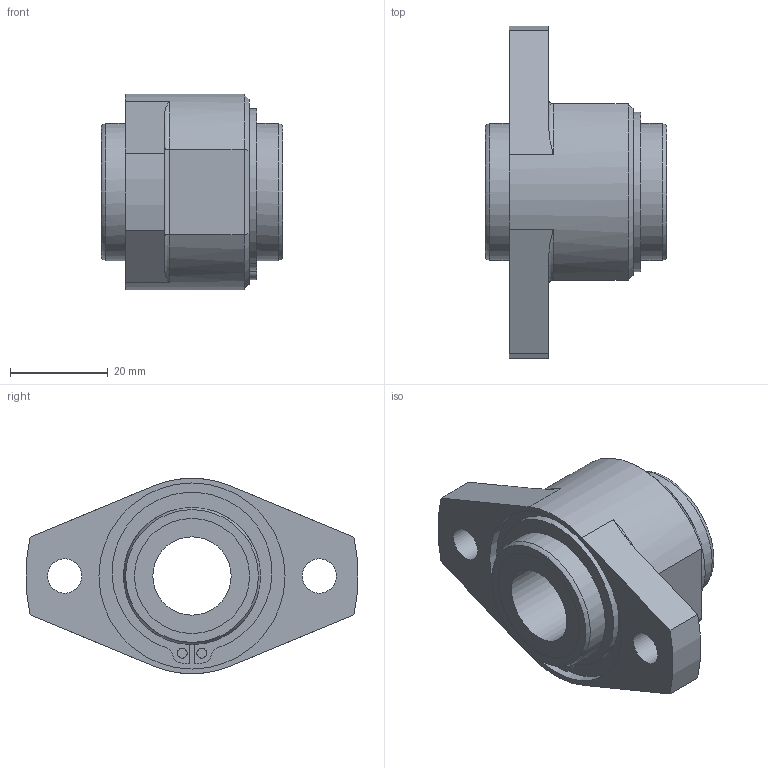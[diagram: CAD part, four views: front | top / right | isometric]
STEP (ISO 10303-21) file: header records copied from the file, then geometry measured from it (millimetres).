
FILE_DESCRIPTION((''),'2;1');
FILE_NAME('D:\製品 (図面)\カタログ用3D\シャフトブロック\LFH\LFH16.stp','2010-01-28T15:54:56',('Tsuchiya'),(''),'Autodesk Inventor 10','Autodesk Inventor 10','');
FILE_SCHEMA(('AUTOMOTIVE_DESIGN { 1 0 10303 214 1 1 1 1 }'));
Length unit declared in the file: millimetre
Products named in the file (1): LFH16
Bounding box: 37 x 67.79 x 39.88 mm (x, y, z)
Volume: 35299.1 mm3; surface area: 10533.6 mm2
Topology: 1 solids, 1 shells, 75 faces, 172 edges, 110 vertices
Faces by surface type: plane 26, cylinder 23, bspline 22, torus 2, cone 2
Full cylindrical faces by diameter (mm): 2 x2, 16 x1, 23.5 x2, 28 x2, 38 x1
Entity records: 2358 total; most frequent: CARTESIAN_POINT 730, DIRECTION 332, ORIENTED_EDGE 308, EDGE_CURVE 154, AXIS2_PLACEMENT_3D 136, VERTEX_POINT 108, EDGE_LOOP 108, CIRCLE 82
